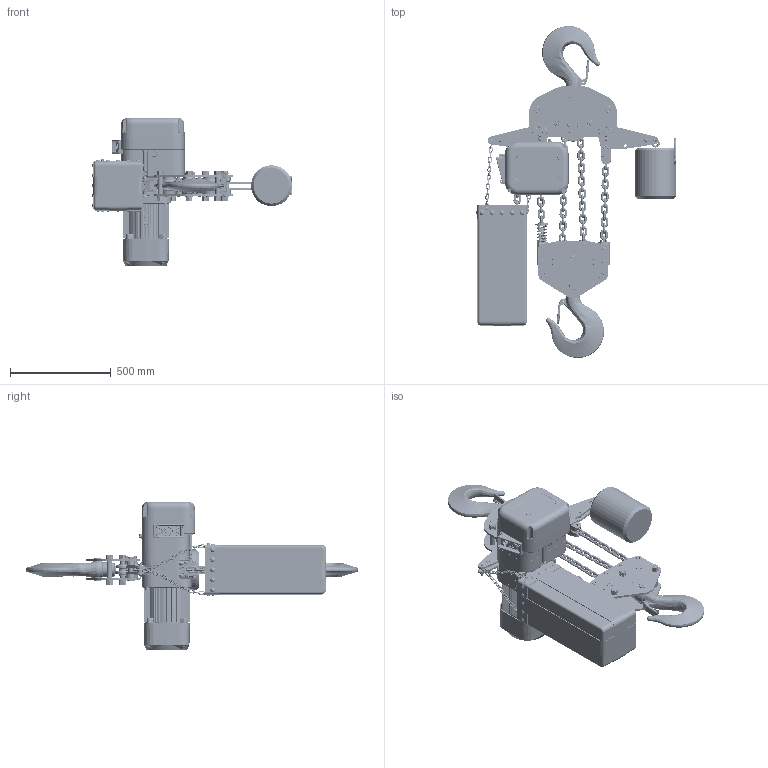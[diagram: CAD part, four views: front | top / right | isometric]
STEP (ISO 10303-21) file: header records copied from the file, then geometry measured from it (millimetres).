
FILE_DESCRIPTION (( 'STEP AP214' ), '1' );
FILE_NAME ('NER2100L.STEP', '2026-08-05T12:21:34', ( '' ), ( '' ), 'SwSTEP 2.0', 'SolidWorks 2026', '' );
FILE_SCHEMA (( 'AUTOMOTIVE_DESIGN' ));
Length unit declared in the file: inch
Products named in the file (103): ER2FS9118; ER2FS9104_ER2FS9104; ES088020L; E6SE075S90663; single coil rectangular section spring washer_bsi_9012711; 9091255_9091255; ER2IS50051; 90104-02_8880T92; ER2HS69321; ER2FS9117; C1BA10090302; ES066075; ER1EM9053; spring lock washer_2_jis_9012717; basic internal retaining ring_am_B27.7M - 3BM1-21; ER1IS90141; ER1HS99322; ER2IS5021; ER1ES1041; ES558003; ER2IS91211; ER2FS9101; NER2100L; ER2HS99371SLDPRT; ER2IS5011; 70210-02; E6S023100; ES857005S; NER2025S_For SCC; ES041050; ER2HS50521; ER1HS99332; ER1EM9051; LCER2025 NP (SHAPED 2)_For SCC; LCER2025 NP (10T L); ER1HS90161; ER2IS90351; external tooth lock washer_am_B18.21.2M-External Tooth Lock Washers_AM6; J1WS011-20080_Rectangular section spring washer BS 4464 - 16 (Type B); E6S057100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
Assembly tree (338 placements, depth 4):
  NER2100L
    NER2025S_For SCC
      ER2FS9104_ER2FS9104
      ER2FS9103
      ER2FS9101
      ER2FS9105
      ER2ES9107_ER2ES9107
      ER2FS9331
      ER2FS9338
      ER2FS9337
      ER2CS9357
      single coil rectangular section spring washer_bsi_9012711  x4
      socket head cap screw_am_9091274  x4
      9091255_9091255  x4
      90912116_90912116  x4
      external tooth lock washer_am_B18.21.2M-External Tooth Lock Washers_AM6  x4
      9091254_9091254  x4
      ES127005S
      ER1BS9135
      E3S112003
      E3S111003
      ER2EI4511
        ER2CS9511
        MS561010  x8
        ER2EI2523
        ER2EI2564
        ES558003  x8
      ER2FS6121
      ER2FS6122
      ER1EM9053
      ER1ES1041
      LCER2025 NP (SHAPED 2)_For SCC
        LCER2025NP  x12
      ER2BHM20I9A5
      ER2BHM25I9A6
      ER2FS9117
      ER2FS9118
      ER2BHM1QS9A6
    ER2IS1121
      ER2IS90341
      ER2IS90351
      E7SE075S90381  x3
      E6SE075S90671  x2
      E6SE075S90663  x2
      spring lock washer_2_jis_9012717  x6
      hex nut style 1_am_9093445  x6
      E6SE075S90541  x2
      J1PS11060012  x2
      C1BA10090302
      E7SE100S90241
      ER2IS91211
      E6S023100
      C2BA150-90712
      ER2HS50521  x2
      ER2BHM1QS9A6
    LCER2025 NP (10T L)
      LCER2025NP  x82
    ER1FH9054
    ER1EM9051
    ER2IS1011
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Bounding box: 993.04 x 1649.16 x 735.27 mm (x, y, z)
Volume: 52616215.9 mm3; surface area: 6953092.1 mm2
Topology: 358 solids, 362 shells, 10683 faces, 26546 edges, 16368 vertices
Faces by surface type: cylinder 4230, plane 2810, torus 1603, cone 963, bspline 735, sphere 342
Entity records: 241725 total; most frequent: CARTESIAN_POINT 90434, DIRECTION 31089, ORIENTED_EDGE 29794, EDGE_CURVE 14897, AXIS2_PLACEMENT_3D 12279, VERTEX_POINT 9434, EDGE_LOOP 6607, LINE 6531
